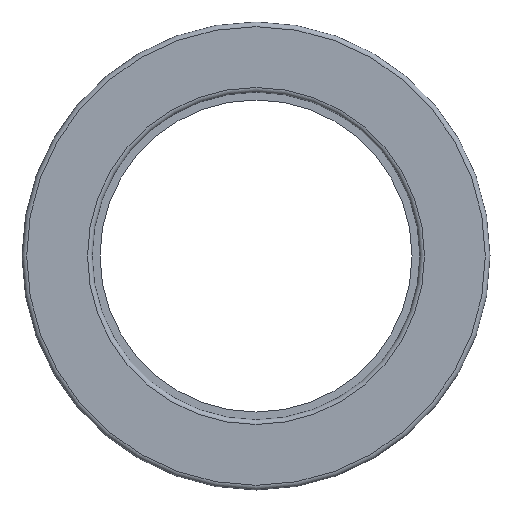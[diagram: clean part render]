
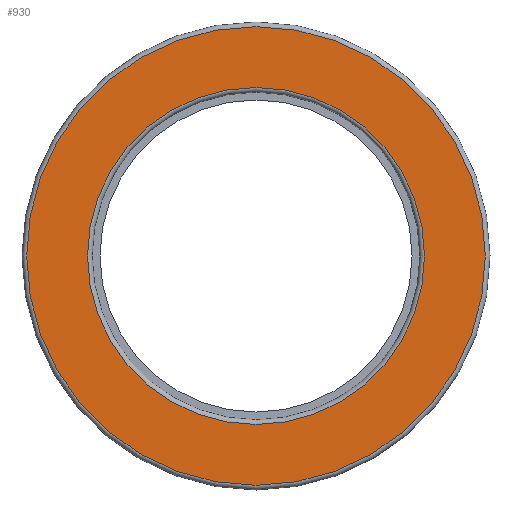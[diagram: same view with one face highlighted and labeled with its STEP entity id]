
A CAD part, front view. The second image highlights one B-rep face of the part: STEP entity #930.
In plain terms, the highlighted planar face has unit normal (0, -1, 0).
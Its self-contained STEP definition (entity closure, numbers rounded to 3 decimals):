
#267=PLANE('',#989);
#313=FACE_BOUND('',#400,.T.);
#346=FACE_OUTER_BOUND('',#399,.T.);
#399=EDGE_LOOP('',(#697));
#400=EDGE_LOOP('',(#698));
#481=CIRCLE('',#988,21.6);
#482=CIRCLE('',#990,29.4);
#499=VERTEX_POINT('',#1347);
#500=VERTEX_POINT('',#1350);
#581=EDGE_CURVE('',#499,#499,#481,.T.);
#582=EDGE_CURVE('',#500,#500,#482,.T.);
#697=ORIENTED_EDGE('',*,*,#582,.F.);
#698=ORIENTED_EDGE('',*,*,#581,.T.);
#930=ADVANCED_FACE('',(#346,#313),#267,.T.);
#988=AXIS2_PLACEMENT_3D('',#1348,#1080,#1081);
#989=AXIS2_PLACEMENT_3D('',#1349,#1082,#1083);
#990=AXIS2_PLACEMENT_3D('',#1351,#1084,#1085);
#1080=DIRECTION('center_axis',(0.,1.,0.));
#1081=DIRECTION('ref_axis',(1.,0.,0.));
#1082=DIRECTION('center_axis',(0.,-1.,0.));
#1083=DIRECTION('ref_axis',(0.,0.,-1.));
#1084=DIRECTION('center_axis',(0.,1.,0.));
#1085=DIRECTION('ref_axis',(1.,0.,0.));
#1347=CARTESIAN_POINT('',(-21.6,-6.5,0.));
#1348=CARTESIAN_POINT('Origin',(0.,-6.5,0.));
#1349=CARTESIAN_POINT('Origin',(-29.4,-6.5,0.));
#1350=CARTESIAN_POINT('',(-29.4,-6.5,0.));
#1351=CARTESIAN_POINT('Origin',(0.,-6.5,0.));
